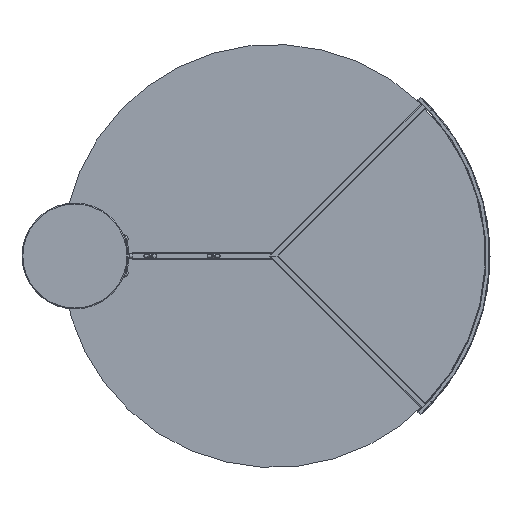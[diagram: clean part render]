
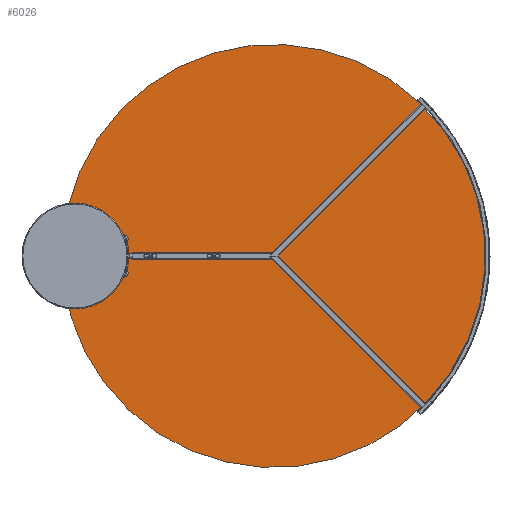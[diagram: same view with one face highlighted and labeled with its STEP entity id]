
A CAD part, front view. The second image highlights one B-rep face of the part: STEP entity #6026.
In plain terms, the highlighted planar face has unit normal (0, -1, 0).
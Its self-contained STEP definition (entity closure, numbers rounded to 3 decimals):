
#394 = ORIENTED_EDGE ( 'NONE', *, *, #6688, .T. ) ;
#1024 = DIRECTION ( 'NONE',  ( 0., 0., -1. ) ) ;
#2409 = VERTEX_POINT ( 'NONE', #4550 ) ;
#2410 = CARTESIAN_POINT ( 'NONE',  ( 0., 0., 0. ) ) ;
#3116 = DIRECTION ( 'NONE',  ( 0., 0., -1. ) ) ;
#3293 = AXIS2_PLACEMENT_3D ( 'NONE', #2410, #5824, #3116 ) ;
#3323 = CARTESIAN_POINT ( 'NONE',  ( 0., 0., -500. ) ) ;
#3429 = AXIS2_PLACEMENT_3D ( 'NONE', #3930, #5324, #7485 ) ;
#3930 = CARTESIAN_POINT ( 'NONE',  ( 0., 0., 0. ) ) ;
#4281 = EDGE_CURVE ( 'NONE', #4396, #2409, #7440, .T. ) ;
#4396 = VERTEX_POINT ( 'NONE', #3323 ) ;
#4550 = CARTESIAN_POINT ( 'NONE',  ( 0., 0., 500. ) ) ;
#4676 = FACE_OUTER_BOUND ( 'NONE', #6753, .T. ) ;
#5321 = CARTESIAN_POINT ( 'NONE',  ( 0., 0., 0. ) ) ;
#5324 = DIRECTION ( 'NONE',  ( 0., -1., 0. ) ) ;
#5824 = DIRECTION ( 'NONE',  ( 0., -1., 0. ) ) ;
#6026 = ADVANCED_FACE ( 'NONE', ( #4676 ), #7435, .T. ) ;
#6208 = ORIENTED_EDGE ( 'NONE', *, *, #4281, .T. ) ;
#6688 = EDGE_CURVE ( 'NONE', #2409, #4396, #6872, .T. ) ;
#6753 = EDGE_LOOP ( 'NONE', ( #6208, #394 ) ) ;
#6872 = CIRCLE ( 'NONE', #3293, 500. ) ;
#7435 = PLANE ( 'NONE',  #3429 ) ;
#7440 = CIRCLE ( 'NONE', #7898, 500. ) ;
#7485 = DIRECTION ( 'NONE',  ( 0., 0., -1. ) ) ;
#7898 = AXIS2_PLACEMENT_3D ( 'NONE', #5321, #7919, #1024 ) ;
#7919 = DIRECTION ( 'NONE',  ( 0., -1., 0. ) ) ;
